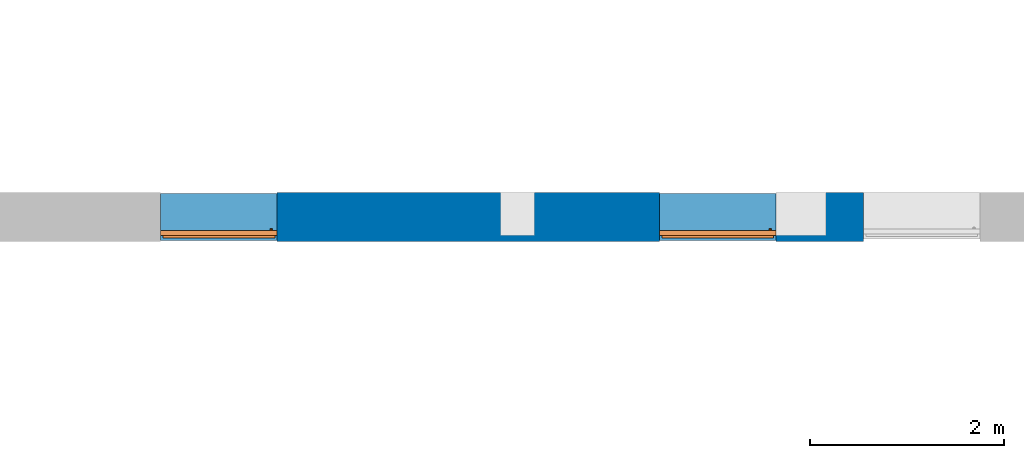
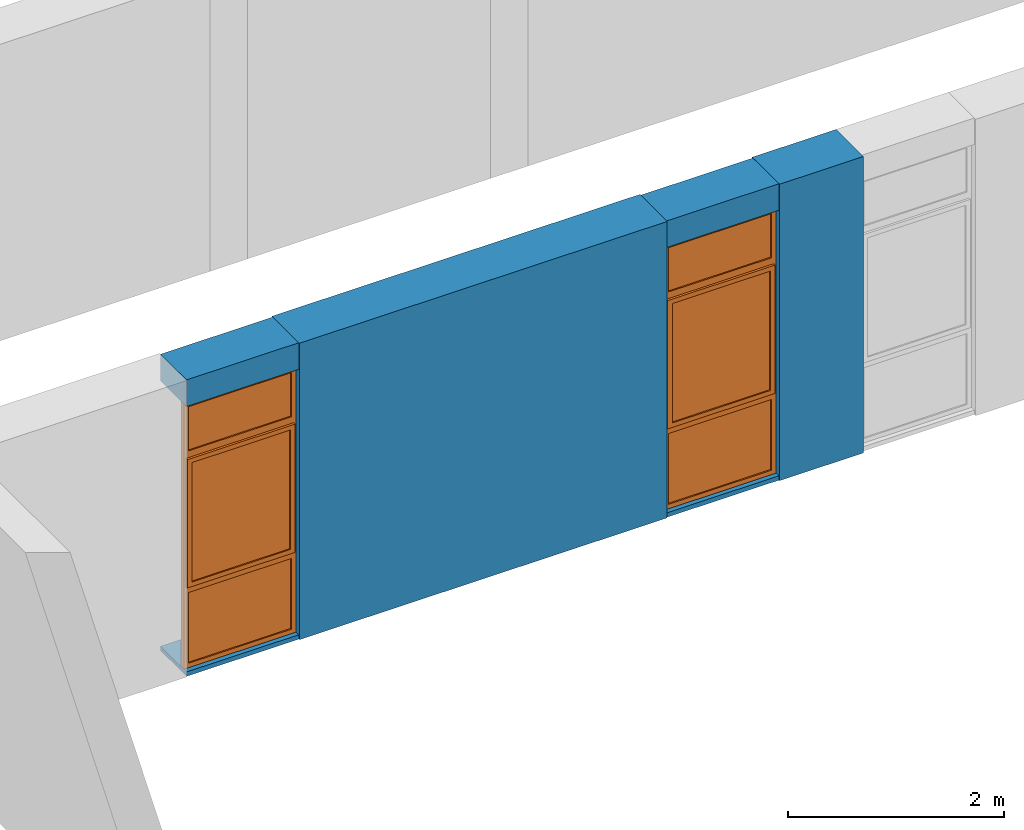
# One storey, part 4 of 11: 4 walls, 2 proxies, 2 openings.
"""IFC2X3 building model written with IfcOpenShell, lengths in millimetres."""

from ifc_helpers import new_model, entity, si_unit, converted_unit, derived_unit, money_unit, direction, frame, origin_with_axes, origin_2d_with_axis, place, context, subcontext, project, spatial, polyline, rectangle, outline, extrude, open_shell, faceted_brep, surface_model, source, transform, mapped, material, layer, layer_set, layer_usage, type_object, element, fill, save


model = new_model("IFC2X3")

# Units and contexts
model_context = context("Model", 3, precision=0.01, world=origin_with_axes(), true_north=direction((0.0, 1.0)))
body_context = subcontext(model_context, "Body", "Model", "MODEL_VIEW")
ifc_project = project(units=[si_unit("LENGTHUNIT", "METRE", prefix="MILLI"), si_unit("AREAUNIT", "SQUARE_METRE"), si_unit("VOLUMEUNIT", "CUBIC_METRE"), converted_unit("PLANEANGLEUNIT", "DEGREE", entity("IfcPlaneAngleMeasure", 0.0174532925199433), si_unit("PLANEANGLEUNIT", "RADIAN"), dimensions=[0, 0, 0, 0, 0, 0, 0]), money_unit("USD"), converted_unit("TIMEUNIT", "Year", entity("IfcTimeMeasure", 31557600.0), si_unit("TIMEUNIT", "SECOND"), dimensions=[0, 0, 1, 0, 0, 0, 0]), si_unit("MASSUNIT", "GRAM", prefix="KILO"), si_unit("THERMODYNAMICTEMPERATUREUNIT", "DEGREE_CELSIUS"), si_unit("LUMINOUSINTENSITYUNIT", "LUMEN"), si_unit("ENERGYUNIT", "JOULE", prefix="MEGA"), derived_unit("THERMALCONDUCTANCEUNIT", [(si_unit("POWERUNIT", "WATT"), 1), (si_unit("LENGTHUNIT", "METRE"), -1), (si_unit("THERMODYNAMICTEMPERATUREUNIT", "KELVIN"), -1)]), derived_unit("SPECIFICHEATCAPACITYUNIT", [(si_unit("ENERGYUNIT", "JOULE"), 1), (si_unit("MASSUNIT", "GRAM", prefix="KILO"), -1), (si_unit("THERMODYNAMICTEMPERATUREUNIT", "KELVIN"), -1)]), derived_unit("MASSDENSITYUNIT", [(si_unit("MASSUNIT", "GRAM", prefix="KILO"), 1), (si_unit("VOLUMEUNIT", "CUBIC_METRE"), -1)])], contexts=[model_context])

# Site, building, storey
site_placement = place(None, origin_with_axes())
site = spatial("IfcSite", under=ifc_project, at=site_placement, Name="Sitio", CompositionType="ELEMENT")
building_placement = place(site_placement, origin_with_axes())
building = spatial("IfcBuilding", under=site, at=building_placement, Name="Construcción", CompositionType="ELEMENT")
storey_placement = place(building_placement, frame((0.0, 0.0, -3650.0), z_axis=(0.0, 0.0, 1.0), x_axis=(1.0, 0.0, 0.0)))
storey = spatial("IfcBuildingStorey", under=building, at=storey_placement, Name="-1. Piso", CompositionType="ELEMENT", Elevation=-3650.0)

# Wall, opening, proxy
ifc_material_1 = material(Name="ARQ_AM246_Arrebossat_De_Guix")
ifc_layer_1 = layer(ifc_material_1, 10.0, ventilated="UNKNOWN")
ifc_material_2 = material(Name="ARQ_CE217_Gero")
ifc_layer_2 = layer(ifc_material_2, 120.0, ventilated="UNKNOWN")
ifc_material_3 = material(Name="ARQ_AI031_Aillament_Poliestireno expandido EPS")
ifc_layer_3 = layer(ifc_material_3, 120.0, ventilated="UNKNOWN")
ifc_material_4 = material(Name="ARQ_CE218_Ceramic")
ifc_layer_4 = layer(ifc_material_4, 220.0, ventilated="UNKNOWN")
ifc_layer_5 = layer(ifc_material_1, 10.0, ventilated="UNKNOWN")
ifc_layer_set_1 = layer_set([ifc_layer_1, ifc_layer_2, ifc_layer_3, ifc_layer_4, ifc_layer_5], Name="façana pati CR2 (ampit)")
ifc_layer_usage_1 = layer_usage(ifc_layer_set_1, "AXIS2", "POSITIVE", -480.0)
wall_type_1 = type_object("IfcWallType", Name="façana pati CR2 (ampit) 480", PredefinedType="NOTDEFINED")
wall_1_placement = place(storey_placement, frame((-20233.93135579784, -1208.975823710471, 0.0), z_axis=(0.0, 0.0, 1.0), x_axis=(1.0, 0.0, 0.0)))
wall_1 = element("IfcWallStandardCase", 1, at=wall_1_placement, inside=storey, type_object=wall_type_1, material=ifc_layer_usage_1, Name="MS-200", context=body_context, shape_type="SweptSolid", body=[
    extrude(outline(polyline([(0.0, -480.0), (1200.000000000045, -480.0), (1200.000000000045, 0.0), (0.0, 0.0), (0.0, -480.0)])), origin_with_axes(), (0.0, 0.0, 1.0), 3350.0),
])
opening_1_placement = place(wall_1_placement, frame((600.0000000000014, 0.0, 49.99999999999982), z_axis=(0.0, 0.0, 1.0), x_axis=(1.0, 0.0, 0.0)))
opening_1 = element("IfcOpeningElement", 2, at=opening_1_placement, cuts=wall_1, Name="V - 008", context=body_context, shape_type="SweptSolid", body=[
    extrude(rectangle(XDim=1200.000000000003, YDim=3000.0, at=origin_2d_with_axis()), frame((0.0, -429.9999999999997, 1500.0), z_axis=(0.0, -1.0, 0.0), x_axis=(-1.0, 0.0, 0.0)), (0.0, 0.0, -1.0), 909.9999999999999),
    extrude(rectangle(XDim=1200.000000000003, YDim=3000.0, at=origin_2d_with_axis()), frame((0.0, -429.9999999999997, 1500.0), z_axis=(0.0, 1.0, 0.0), x_axis=(-1.0, 0.0, 0.0)), (0.0, 0.0, -1.0), 530.0),
])
building_element_proxy_type = type_object("IfcBuildingElementProxyType", Name="Ventana Vertical Multi-Faja 27", PredefinedType="NOTDEFINED")
shared_shape = source(origin_with_axes(), body_context, "Body", "SurfaceModel", [
    faceted_brep([(-575.0, 0.0, 925.0), (-549.9999999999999, 0.0, 925.0), (-549.9999999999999, 0.0, 850.0), (-549.9999999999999, 0.0, 50.00000000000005), (-600.0, 0.0, 50.00000000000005), (-600.0, 0.0, 2950.0), (-549.9999999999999, 0.0, 2950.0), (-549.9999999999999, 0.0, 2450.0), (-549.9999999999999, 0.0, 2375.0), (-575.0, 0.0, 2375.0), (-575.0, -25.00000000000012, 925.0), (-549.9999999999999, -25.00000000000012, 925.0), (-549.9999999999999, -25.00000000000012, 950.0000000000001), (-549.9999999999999, -50.00000000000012, 950.0000000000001), (-549.9999999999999, -50.00000000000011, 850.0), (-549.9999999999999, -50.00000000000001, 50.00000000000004), (-600.0, -50.00000000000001, 50.00000000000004), (-600.0, -50.00000000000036, 2950.0), (-549.9999999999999, -50.00000000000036, 2950.0), (-549.9999999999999, -50.0000000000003, 2450.0), (-550.0, -25.00000000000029, 2375.0), (-549.9999999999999, -50.00000000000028, 2350.0), (-549.9999999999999, -25.00000000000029, 2350.0), (-575.0, -25.00000000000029, 2375.0)], [[[0, 1, 2, 3, 4, 5, 6, 7, 8, 9]], [[0, 10, 11, 1]], [[11, 12, 13, 14, 2, 1]], [[3, 2, 14, 15]], [[4, 3, 15, 16]], [[5, 4, 16, 17]], [[6, 5, 17, 18]], [[7, 6, 18, 19]], [[20, 8, 7, 19, 21, 22]], [[20, 23, 9, 8]], [[9, 23, 10, 0]], [[22, 12, 11, 10, 23, 20]], [[22, 21, 13, 12]], [[17, 16, 15, 14, 13, 21, 19, 18]]]),
    faceted_brep([(575.0, 0.0, 925.0), (575.0, 0.0, 2375.0), (549.9999999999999, 0.0, 2375.0), (549.9999999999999, 0.0, 2450.0), (549.9999999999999, 0.0, 2950.0), (600.0, 0.0, 2950.0), (600.0, 0.0, 50.00000000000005), (549.9999999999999, 0.0, 50.00000000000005), (549.9999999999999, 0.0, 850.0), (549.9999999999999, 0.0, 925.0), (575.0, -25.00000000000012, 925.0), (575.0, -25.00000000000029, 2375.0), (549.9999999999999, -25.00000000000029, 2375.0), (549.9999999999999, -25.00000000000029, 2350.0), (549.9999999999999, -50.00000000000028, 2350.0), (549.9999999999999, -50.0000000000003, 2450.0), (549.9999999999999, -50.00000000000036, 2950.0), (600.0, -50.00000000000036, 2950.0), (600.0, -50.00000000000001, 50.00000000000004), (549.9999999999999, -50.00000000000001, 50.00000000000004), (549.9999999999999, -50.00000000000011, 850.0), (550.0, -25.00000000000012, 925.0), (549.9999999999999, -50.00000000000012, 950.0000000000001), (549.9999999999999, -25.00000000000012, 950.0000000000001)], [[[0, 1, 2, 3, 4, 5, 6, 7, 8, 9]], [[0, 10, 11, 1]], [[1, 11, 12, 2]], [[12, 13, 14, 15, 3, 2]], [[4, 3, 15, 16]], [[5, 4, 16, 17]], [[6, 5, 17, 18]], [[7, 6, 18, 19]], [[8, 7, 19, 20]], [[21, 9, 8, 20, 22, 23]], [[9, 21, 10, 0]], [[12, 11, 10, 21, 23, 13]], [[23, 22, 14, 13]], [[14, 22, 20, 19, 18, 17, 16, 15]]]),
    faceted_brep([(-549.9999999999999, -25.00000000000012, 950.0000000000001), (-549.9999999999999, -50.00000000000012, 950.0000000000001), (549.9999999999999, -50.00000000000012, 950.0000000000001), (549.9999999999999, -25.00000000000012, 950.0000000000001), (-549.9999999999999, -25.00000000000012, 925.0), (-549.9999999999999, 0.0, 925.0), (-549.9999999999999, 0.0, 850.0), (-549.9999999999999, -50.00000000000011, 850.0), (549.9999999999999, -50.00000000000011, 850.0), (550.0, -25.00000000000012, 925.0), (549.9999999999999, 0.0, 850.0), (549.9999999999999, 0.0, 925.0)], [[[0, 1, 2, 3]], [[4, 5, 6, 7, 1, 0]], [[1, 7, 8, 2]], [[9, 3, 2, 8, 10, 11]], [[9, 4, 0, 3]], [[5, 4, 9, 11]], [[11, 10, 6, 5]], [[6, 10, 8, 7]]]),
    faceted_brep([(-549.9999999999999, 0.0, 2375.0), (-549.9999999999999, 0.0, 2450.0), (549.9999999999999, 0.0, 2450.0), (549.9999999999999, 0.0, 2375.0), (-550.0, -25.00000000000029, 2375.0), (-549.9999999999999, -25.00000000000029, 2350.0), (-549.9999999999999, -50.00000000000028, 2350.0), (-549.9999999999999, -50.0000000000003, 2450.0), (549.9999999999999, -50.0000000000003, 2450.0), (549.9999999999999, -25.00000000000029, 2375.0), (549.9999999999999, -50.00000000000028, 2350.0), (549.9999999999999, -25.00000000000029, 2350.0)], [[[0, 1, 2, 3]], [[4, 5, 6, 7, 1, 0]], [[2, 1, 7, 8]], [[9, 3, 2, 8, 10, 11]], [[9, 4, 0, 3]], [[11, 5, 4, 9]], [[11, 10, 6, 5]], [[7, 6, 10, 8]]]),
    faceted_brep([(549.9999999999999, -50.00000000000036, 2950.0), (549.9999999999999, 0.0, 2950.0), (600.0, 0.0, 2950.0), (600.0, -50.00000000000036, 2950.0), (-549.9999999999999, -50.00000000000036, 2950.0), (-549.9999999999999, 0.0, 2950.0), (-600.0, 0.0, 2950.0), (-600.0, 0.0, 3000.0), (600.0, 0.0, 3000.0), (600.0, -50.00000000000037, 3000.0), (-600.0, -50.00000000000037, 3000.0), (-600.0, -50.00000000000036, 2950.0)], [[[0, 1, 2, 3]], [[4, 5, 1, 0]], [[1, 5, 6, 7, 8, 2]], [[3, 2, 8, 9]], [[0, 3, 9, 10, 11, 4]], [[11, 6, 5, 4]], [[10, 7, 6, 11]], [[9, 8, 7, 10]]]),
    faceted_brep([(-549.9999999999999, -50.00000000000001, 50.0), (-549.9999999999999, 0.0, 50.00000000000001), (-600.0, 0.0, 50.00000000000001), (-600.0, -50.00000000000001, 50.0), (549.9999999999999, -50.00000000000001, 50.0), (549.9999999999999, 0.0, 50.00000000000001), (600.0, 0.0, 50.00000000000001), (600.0, 0.0, 0.0), (-600.0, 0.0, 0.0), (-600.0, -50.0, 0.0), (600.0, -50.0, 0.0), (600.0, -50.00000000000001, 50.0)], [[[0, 1, 2, 3]], [[4, 5, 1, 0]], [[1, 5, 6, 7, 8, 2]], [[3, 2, 8, 9]], [[0, 3, 9, 10, 11, 4]], [[11, 6, 5, 4]], [[10, 7, 6, 11]], [[9, 8, 7, 10]]]),
    surface_model("IfcShellBasedSurfaceModel", [(-549.9999999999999, -35.0, 49.99999999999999), (549.9999999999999, -35.0, 49.99999999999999), (549.9999999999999, -35.0000000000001, 850.0), (-549.9999999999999, -35.0000000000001, 850.0)], [open_shell([[[0, 1, 2, 3]]])]),
    surface_model("IfcShellBasedSurfaceModel", [(-549.9999999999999, -15.0, 49.99999999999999), (-549.9999999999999, -15.0000000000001, 850.0), (549.9999999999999, -15.0000000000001, 850.0), (549.9999999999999, -15.0, 49.99999999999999)], [open_shell([[[0, 1, 2, 3]]])]),
    faceted_brep([(-521.5, -25.00000000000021, 1677.0), (-522.8397459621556, -25.00000000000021, 1682.0), (-522.8397459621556, -37.00000000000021, 1682.0), (-521.5, -37.00000000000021, 1677.0), (-521.5, -25.0000000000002, 1623.0), (-522.8397459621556, -25.0000000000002, 1618.0), (-526.5, -25.0000000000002, 1614.339745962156), (-531.5, -25.0000000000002, 1613.0), (-543.5, -25.0000000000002, 1613.0), (-548.5, -25.0000000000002, 1614.339745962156), (-552.1602540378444, -25.0000000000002, 1618.0), (-553.5, -25.0000000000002, 1623.0), (-553.5, -25.00000000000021, 1677.0), (-552.1602540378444, -25.00000000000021, 1682.0), (-548.5, -25.00000000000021, 1685.660254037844), (-543.5, -25.00000000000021, 1687.0), (-531.5, -25.00000000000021, 1687.0), (-526.5, -25.00000000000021, 1685.660254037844), (-526.5, -37.00000000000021, 1685.660254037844), (-531.5, -37.00000000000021, 1687.0), (-543.5, -37.00000000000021, 1687.0), (-548.5, -37.00000000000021, 1685.660254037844), (-552.1602540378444, -37.00000000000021, 1682.0), (-553.5, -37.00000000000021, 1677.0), (-553.5, -37.0000000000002, 1623.0), (-552.1602540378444, -37.0000000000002, 1618.0), (-548.5, -37.0000000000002, 1614.339745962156), (-543.5, -37.0000000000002, 1613.0), (-531.5, -37.0000000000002, 1613.0), (-526.5, -37.0000000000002, 1614.339745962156), (-522.8397459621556, -37.0000000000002, 1618.0), (-521.5, -37.0000000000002, 1623.0)], [[[0, 1, 2, 3]], [[0, 4, 5, 6, 7, 8, 9, 10, 11, 12, 13, 14, 15, 16, 17, 1]], [[1, 17, 18, 2]], [[3, 2, 18, 19, 20, 21, 22, 23, 24, 25, 26, 27, 28, 29, 30, 31]], [[4, 0, 3, 31]], [[5, 4, 31, 30]], [[6, 5, 30, 29]], [[7, 6, 29, 28]], [[8, 7, 28, 27]], [[9, 8, 27, 26]], [[10, 9, 26, 25]], [[11, 10, 25, 24]], [[12, 11, 24, 23]], [[13, 12, 23, 22]], [[14, 13, 22, 21]], [[15, 14, 21, 20]], [[16, 15, 20, 19]], [[17, 16, 19, 18]]]),
    faceted_brep([(-537.5, -37.0000000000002, 1663.5), (-544.25, -37.0000000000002, 1661.69134295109), (-544.25, -61.00000000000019, 1661.69134295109), (-537.5, -61.00000000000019, 1663.5), (-530.75, -37.0000000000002, 1661.69134295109), (-525.80865704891, -37.0000000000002, 1656.75), (-524.0, -37.0000000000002, 1650.0), (-525.8086570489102, -37.0000000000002, 1643.25), (-530.75, -37.0000000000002, 1638.30865704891), (-537.5, -37.0000000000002, 1636.5), (-544.25, -37.0000000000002, 1638.30865704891), (-549.19134295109, -37.0000000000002, 1643.25), (-550.9999999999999, -37.0000000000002, 1650.0), (-549.1913429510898, -37.0000000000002, 1656.75), (-549.1913429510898, -61.00000000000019, 1656.75), (-550.9999999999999, -61.00000000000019, 1650.0), (-549.19134295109, -61.00000000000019, 1643.25), (-544.25, -61.00000000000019, 1638.30865704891), (-537.5, -61.00000000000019, 1636.5), (-530.75, -61.00000000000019, 1638.30865704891), (-525.8086570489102, -61.00000000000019, 1643.25), (-524.0, -61.00000000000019, 1650.0), (-525.80865704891, -61.00000000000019, 1656.75), (-530.75, -61.00000000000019, 1661.69134295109)], [[[0, 1, 2, 3]], [[0, 4, 5, 6, 7, 8, 9, 10, 11, 12, 13, 1]], [[1, 13, 14, 2]], [[3, 2, 14, 15, 16, 17, 18, 19, 20, 21, 22, 23]], [[4, 0, 3, 23]], [[5, 4, 23, 22]], [[6, 5, 22, 21]], [[7, 6, 21, 20]], [[8, 7, 20, 19]], [[9, 8, 19, 18]], [[10, 9, 18, 17]], [[11, 10, 17, 16]], [[12, 11, 16, 15]], [[13, 12, 15, 14]]]),
    faceted_brep([(-526.0, -61.00000000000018, 1543.0), (-537.5, -61.00000000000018, 1540.0), (-548.9999999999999, -61.00000000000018, 1543.0), (-550.9999999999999, -61.00000000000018, 1546.0), (-550.9999999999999, -61.00000000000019, 1650.0), (-549.1913429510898, -61.00000000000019, 1656.75), (-544.25, -61.00000000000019, 1661.69134295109), (-537.5, -61.00000000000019, 1663.5), (-530.75, -61.00000000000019, 1661.69134295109), (-525.80865704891, -61.00000000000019, 1656.75), (-524.0, -61.00000000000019, 1650.0), (-524.0, -61.00000000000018, 1546.0), (-525.9999999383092, -69.00000000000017, 1543.000000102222), (-537.499999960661, -69.00000000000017, 1539.999999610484), (-548.9999999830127, -69.00000000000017, 1543.000000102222), (-551.0000003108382, -69.00000000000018, 1545.999999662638), (-551.0000003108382, -69.0000000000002, 1649.99999994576), (-549.1913429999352, -69.0000000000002, 1656.749999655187), (-544.2499996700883, -69.0000000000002, 1661.691342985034), (-537.499999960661, -69.0000000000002, 1663.500000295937), (-530.7500002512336, -69.0000000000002, 1661.691342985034), (-525.8086569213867, -69.0000000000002, 1656.749999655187), (-523.9999996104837, -69.0000000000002, 1649.99999994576), (-523.9999996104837, -69.00000000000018, 1545.999999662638), (-527.8625374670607, -71.99999956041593, 1545.61451963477), (-537.499999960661, -71.99999956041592, 1543.100398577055), (-547.1374624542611, -71.99999956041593, 1545.61451963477), (-548.0000007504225, -71.99999956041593, 1546.908326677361), (-548.0000007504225, -71.99999956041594, 1649.605042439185), (-546.5016170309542, -71.99999956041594, 1655.197085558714), (-542.6970855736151, -71.99999956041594, 1659.001617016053), (-537.499999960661, -71.99999956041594, 1660.394172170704), (-532.3029143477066, -71.99999956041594, 1659.001617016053), (-528.4983828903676, -71.99999956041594, 1655.197085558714), (-526.9999991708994, -71.99999956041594, 1649.605042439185), (-526.9999991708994, -71.99999956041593, 1546.908326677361)], [[[0, 1, 2, 3, 4, 5, 6, 7, 8, 9, 10, 11]], [[1, 0, 12, 13]], [[2, 1, 13, 14]], [[3, 2, 14, 15]], [[4, 3, 15, 16]], [[5, 4, 16, 17]], [[6, 5, 17, 18]], [[7, 6, 18, 19]], [[8, 7, 19, 20]], [[9, 8, 20, 21]], [[10, 9, 21, 22]], [[11, 10, 22, 23]], [[0, 11, 23, 12]], [[13, 12, 24, 25]], [[14, 13, 25, 26]], [[15, 14, 26, 27]], [[16, 15, 27, 28]], [[17, 16, 28, 29]], [[18, 17, 29, 30]], [[19, 18, 30, 31]], [[20, 19, 31, 32]], [[21, 20, 32, 33]], [[22, 21, 33, 34]], [[23, 22, 34, 35]], [[12, 23, 35, 24]], [[26, 25, 24, 35, 34, 33, 32, 31, 30, 29, 28, 27]]]),
    faceted_brep([(-524.9999999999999, -25.00000000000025, 2325.0), (-524.9999999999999, 24.99999999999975, 2325.0), (-575.0, 24.99999999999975, 2325.0), (-575.0, -25.00000000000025, 2325.0), (-524.9999999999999, -25.00000000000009, 975.0000000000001), (-524.9999999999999, 24.99999999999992, 975.0000000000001), (-575.0, 24.99999999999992, 975.0000000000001), (-575.0, -25.00000000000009, 975.0000000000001)], [[[0, 1, 2, 3]], [[4, 5, 1, 0]], [[1, 5, 6, 2]], [[3, 2, 6, 7]], [[0, 3, 7, 4]], [[7, 6, 5, 4]]]),
    faceted_brep([(524.9999999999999, -25.00000000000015, 975.0000000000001), (524.9999999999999, 24.99999999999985, 975.0000000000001), (575.0, 24.99999999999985, 975.0000000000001), (575.0, -25.00000000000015, 975.0000000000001), (524.9999999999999, -25.00000000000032, 2325.0), (524.9999999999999, 24.99999999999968, 2325.0), (575.0, 24.99999999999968, 2325.0), (575.0, -25.00000000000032, 2325.0)], [[[0, 1, 2, 3]], [[4, 5, 1, 0]], [[1, 5, 6, 2]], [[3, 2, 6, 7]], [[0, 3, 7, 4]], [[7, 6, 5, 4]]]),
    faceted_brep([(575.0, -25.00000000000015, 925.0), (575.0, 24.99999999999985, 925.0), (575.0, 24.99999999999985, 975.0000000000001), (575.0, -25.00000000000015, 975.0000000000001), (-575.0, -25.00000000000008, 925.0), (-575.0, 24.99999999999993, 925.0), (-575.0, 24.99999999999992, 975.0000000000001), (-524.9999999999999, 24.99999999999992, 975.0000000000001), (524.9999999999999, 24.99999999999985, 975.0000000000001), (524.9999999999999, -25.00000000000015, 975.0000000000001), (-524.9999999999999, -25.00000000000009, 975.0000000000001), (-575.0, -25.00000000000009, 975.0000000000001)], [[[0, 1, 2, 3]], [[4, 5, 1, 0]], [[1, 5, 6, 7, 8, 2]], [[3, 2, 8, 9]], [[0, 3, 9, 10, 11, 4]], [[11, 6, 5, 4]], [[10, 7, 6, 11]], [[9, 8, 7, 10]]]),
    faceted_brep([(-575.0, -25.00000000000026, 2375.0), (-575.0, 24.99999999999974, 2375.0), (-575.0, 24.99999999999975, 2325.0), (-575.0, -25.00000000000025, 2325.0), (575.0, -25.00000000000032, 2375.0), (575.0, 24.99999999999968, 2375.0), (575.0, 24.99999999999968, 2325.0), (524.9999999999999, 24.99999999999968, 2325.0), (-524.9999999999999, 24.99999999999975, 2325.0), (-524.9999999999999, -25.00000000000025, 2325.0), (524.9999999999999, -25.00000000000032, 2325.0), (575.0, -25.00000000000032, 2325.0)], [[[0, 1, 2, 3]], [[4, 5, 1, 0]], [[1, 5, 6, 7, 8, 2]], [[3, 2, 8, 9]], [[0, 3, 9, 10, 11, 4]], [[11, 6, 5, 4]], [[10, 7, 6, 11]], [[9, 8, 7, 10]]]),
    surface_model("IfcShellBasedSurfaceModel", [(-524.9999999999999, -10.00000000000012, 975.0000000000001), (524.9999999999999, -10.00000000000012, 975.0000000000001), (524.9999999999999, -10.00000000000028, 2325.0), (-524.9999999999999, -10.00000000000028, 2325.0)], [open_shell([[[0, 1, 2, 3]]])]),
    surface_model("IfcShellBasedSurfaceModel", [(-524.9999999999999, 9.999999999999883, 975.0000000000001), (-524.9999999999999, 9.99999999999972, 2325.0), (524.9999999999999, 9.99999999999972, 2325.0), (524.9999999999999, 9.999999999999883, 975.0000000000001)], [open_shell([[[0, 1, 2, 3]]])]),
    surface_model("IfcShellBasedSurfaceModel", [(-549.9999999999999, -35.0000000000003, 2450.0), (549.9999999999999, -35.0000000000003, 2450.0), (549.9999999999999, -35.00000000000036, 2950.0), (-549.9999999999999, -35.00000000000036, 2950.0)], [open_shell([[[0, 1, 2, 3]]])]),
    surface_model("IfcShellBasedSurfaceModel", [(-549.9999999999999, -15.0000000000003, 2450.0), (-549.9999999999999, -15.00000000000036, 2950.0), (549.9999999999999, -15.00000000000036, 2950.0), (549.9999999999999, -15.0000000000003, 2450.0)], [open_shell([[[0, 1, 2, 3]]])]),
])
proxy_1_placement = place(opening_1_placement, frame((600.0000000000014, 0.0, 0.0), z_axis=(0.0, 0.0, 1.0), x_axis=(-1.0, 0.0, 0.0)))
proxy_1 = element("IfcBuildingElementProxy", 3, at=proxy_1_placement, inside=storey, type_object=building_element_proxy_type, Name="V - 008", context=body_context, shape_type="MappedRepresentation", body=[
    mapped(shared_shape, transform((600.0000000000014, 429.9999999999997, 0.0))),
])
fill(opening_1, proxy_1)

ifc_layer_usage_2 = layer_usage(ifc_layer_set_1, "AXIS2", "POSITIVE", -480.0)
wall_2_placement = place(storey_placement, frame((-25366.43135579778, -1208.97582371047, 0.0), z_axis=(0.0, 0.0, 1.0), x_axis=(1.0, 0.0, 0.0)))
wall_2 = element("IfcWallStandardCase", 4, at=wall_2_placement, inside=storey, type_object=wall_type_1, material=ifc_layer_usage_2, Name="MS-200", context=body_context, shape_type="SweptSolid", body=[
    extrude(outline(polyline([(0.0, -480.0), (1200.000000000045, -480.0), (1200.000000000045, 0.0), (0.0, 0.0), (0.0, -480.0)])), origin_with_axes(), (0.0, 0.0, 1.0), 3350.0),
])
opening_2_placement = place(wall_2_placement, frame((600.0000000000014, 0.0, 49.99999999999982), z_axis=(0.0, 0.0, 1.0), x_axis=(1.0, 0.0, 0.0)))
opening_2 = element("IfcOpeningElement", 5, at=opening_2_placement, cuts=wall_2, Name="V - 008", context=body_context, shape_type="SweptSolid", body=[
    extrude(rectangle(XDim=1200.000000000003, YDim=3000.0, at=origin_2d_with_axis()), frame((0.0, -429.9999999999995, 1500.0), z_axis=(0.0, -1.0, 0.0), x_axis=(-1.0, 0.0, 0.0)), (0.0, 0.0, -1.0), 909.9999999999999),
    extrude(rectangle(XDim=1200.000000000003, YDim=3000.0, at=origin_2d_with_axis()), frame((0.0, -429.9999999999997, 1500.0), z_axis=(0.0, 1.0, 0.0), x_axis=(-1.0, 0.0, 0.0)), (0.0, 0.0, -1.0), 530.0),
])
proxy_2_placement = place(opening_2_placement, frame((600.0000000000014, 0.0, 0.0), z_axis=(0.0, 0.0, 1.0), x_axis=(-1.0, 0.0, 0.0)))
proxy_2 = element("IfcBuildingElementProxy", 6, at=proxy_2_placement, inside=storey, type_object=building_element_proxy_type, Name="V - 008", context=body_context, shape_type="MappedRepresentation", body=[
    mapped(shared_shape, transform((600.0000000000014, 429.9999999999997, 0.0))),
])
fill(opening_2, proxy_2)

# Walls
ifc_layer_6 = layer(ifc_material_2, 10.0, ventilated="UNKNOWN")
ifc_layer_7 = layer(ifc_material_2, 90.0, ventilated="UNKNOWN")
ifc_layer_8 = layer(ifc_material_3, 180.0, ventilated="UNKNOWN")
ifc_layer_9 = layer(ifc_material_4, 215.0, ventilated="UNKNOWN")
ifc_layer_10 = layer(ifc_material_1, 10.0, ventilated="UNKNOWN")
ifc_layer_set_2 = layer_set([ifc_layer_6, ifc_layer_7, ifc_layer_8, ifc_layer_9, ifc_layer_10], Name="façana pati CR2")
ifc_layer_usage_3 = layer_usage(ifc_layer_set_2, "AXIS2", "POSITIVE", -505.0)
wall_type_2 = type_object("IfcWallType", Name="façana pati CR2 505", PredefinedType="NOTDEFINED")
wall_3_placement = place(storey_placement, frame((-19033.93135579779, -1193.975823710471, 0.0), z_axis=(0.0, 0.0, 1.0), x_axis=(1.0, 0.0, 0.0)))
element("IfcWallStandardCase", 7, at=wall_3_placement, inside=storey, type_object=wall_type_2, material=ifc_layer_usage_3, Name="MS-200", context=body_context, shape_type="SweptSolid", body=[
    extrude(outline(polyline([(0.0, -505.0000000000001), (897.5000000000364, -505.0000000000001), (897.5000000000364, 0.0), (0.0, 0.0), (0.0, -505.0000000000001)])), origin_with_axes(), (0.0, 0.0, 1.0), 3350.0),
])
ifc_layer_usage_4 = layer_usage(ifc_layer_set_2, "AXIS2", "POSITIVE", -505.0)
wall_4_placement = place(storey_placement, frame((-24166.43135579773, -1193.97582371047, 0.0), z_axis=(0.0, 0.0, 1.0), x_axis=(1.0, 0.0, 0.0)))
element("IfcWallStandardCase", 8, at=wall_4_placement, inside=storey, type_object=wall_type_2, material=ifc_layer_usage_4, Name="MS-200", context=body_context, shape_type="SweptSolid", body=[
    extrude(outline(polyline([(0.0, -504.9999999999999), (3932.500000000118, -505.0000000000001), (3932.500000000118, 0.0), (0.0, 0.0), (0.0, -504.9999999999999)])), origin_with_axes(), (0.0, 0.0, 1.0), 3350.0),
])

save(model, "model.ifc")
